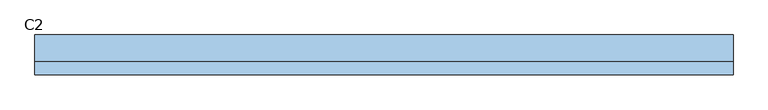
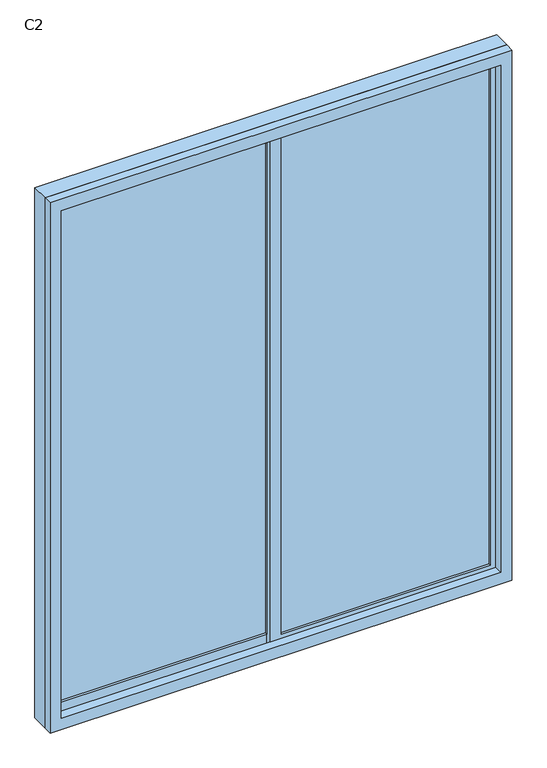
"""IFC4 building model written with IfcOpenShell, lengths in millimetres: window geometry, 推拉窗6 : C2."""

from ifc_helpers import new_model, si_unit, frame, origin, place, context, project, spatial, polyline, outline, extrude, source, transform, mapped, element, save


def c2_bbde2cf6(model_context):
    return source(origin(), model_context, "Body", "SweptSolid", [
        extrude(outline(polyline([(-965.475, -36.8734375), (-15.475, -36.8734375), (-15.475, -46.8734375), (-965.475, -46.8734375), (-965.475, -36.8734375)])), frame((0.0, 0.0, 675.0), z_axis=(0.0, 0.0, 1.0), x_axis=(1.0, 0.0, 0.0)), (0.0, 0.0, 1.0), 2400.0),
        extrude(outline(polyline([(34.525, -66.8734375), (984.525, -66.8734375), (984.525, -76.8734375), (34.525, -76.8734375), (34.525, -66.8734375)])), frame((0.0, 0.0, 675.0), z_axis=(0.0, 0.0, 1.0), x_axis=(1.0, 0.0, 0.0)), (0.0, 0.0, 1.0), 2400.0),
        extrude(outline(polyline([(3150.0, -1040.475), (600.0, -1040.475), (600.0, 1059.525), (3150.0, 1059.525), (3150.0, -1040.475)]), holes=[polyline([(3095.0, 1009.525), (655.0, 1009.525), (655.0, -990.475), (3095.0, -990.475), (3095.0, 1009.525)])]), frame((0.0, -126.8734375, 0.0), z_axis=(0.0, 1.0, 0.0), x_axis=(0.0, 0.0, 1.0)), (0.0, 0.0, 1.0), 40.0),
        extrude(outline(polyline([(625.0, 34.525), (3125.0, 34.525), (3125.0, -1015.475), (625.0, -1015.475), (625.0, 34.525)]), holes=[polyline([(675.0, -15.475), (675.0, -965.475), (3075.0, -965.475), (3075.0, -15.475), (675.0, -15.475)])]), frame((0.0, -56.8734375, 0.0), z_axis=(0.0, 1.0, 0.0), x_axis=(0.0, 0.0, 1.0)), (0.0, 0.0, 1.0), 30.0),
        extrude(outline(polyline([(3125.0, -15.475), (625.0, -15.475), (625.0, 1034.525), (3125.0, 1034.525), (3125.0, -15.475)]), holes=[polyline([(3075.0, 34.525), (3075.0, 984.525), (675.0, 984.525), (675.0, 34.525), (3075.0, 34.525)])]), frame((0.0, -86.8734375, 0.0), z_axis=(0.0, 1.0, 0.0), x_axis=(0.0, 0.0, 1.0)), (0.0, 0.0, 1.0), 30.0),
        extrude(outline(polyline([(3150.0, -1040.475), (600.0, -1040.475), (600.0, 1059.525), (3150.0, 1059.525), (3150.0, -1040.475)]), holes=[polyline([(625.0, -1015.475), (3125.0, -1015.475), (3125.0, 1034.525), (625.0, 1034.525), (625.0, -1015.475)])]), frame((0.0, -86.8734375, 0.0), z_axis=(0.0, 1.0, 0.0), x_axis=(0.0, 0.0, 1.0)), (0.0, 0.0, 1.0), 80.0),
    ])


if __name__ == "__main__":
    model = new_model("IFC4")
    model_context = context("Model", 3, world=origin())
    ifc_project = project(units=[si_unit("LENGTHUNIT", "METRE", prefix="MILLI")], contexts=[model_context])
    site = spatial("IfcSite", under=ifc_project)
    building = spatial("IfcBuilding", under=site)
    placement = place(None, origin())
    c2_shape = c2_bbde2cf6(model_context)
    element("IfcWindow", 1, ObjectType="推拉窗6 : C2", at=placement, inside=building, context=model_context, shape_type="MappedRepresentation", body=[
        mapped(c2_shape, transform((0.0, 0.0, 0.0), x_axis=(1.0, 0.0, 0.0), y_axis=(0.0, 1.0, 0.0), z_axis=(0.0, 0.0, 1.0))),
    ])
    save(model, "model.ifc")
